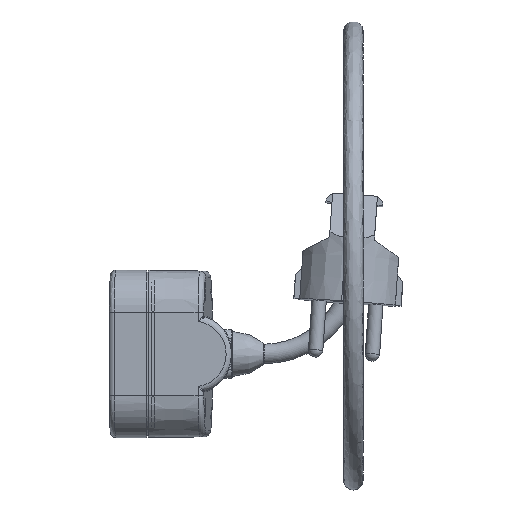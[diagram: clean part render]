
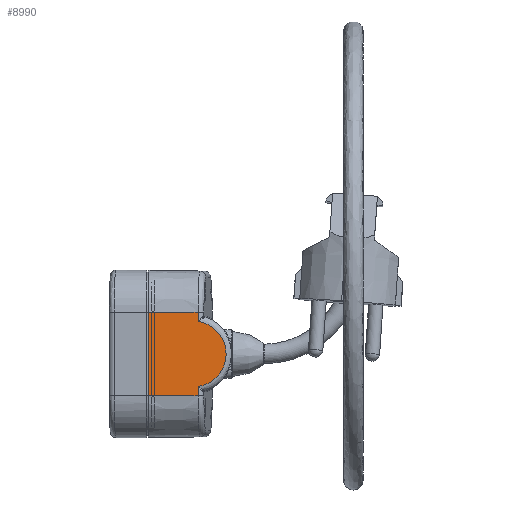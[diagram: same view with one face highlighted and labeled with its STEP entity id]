
A CAD part, left-side view. The second image highlights one B-rep face of the part: STEP entity #8990.
In plain terms, the highlighted planar face has unit normal (-1, -0.018, 0).
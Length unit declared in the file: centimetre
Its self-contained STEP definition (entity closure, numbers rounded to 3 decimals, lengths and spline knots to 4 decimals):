
#3900=CARTESIAN_POINT('',(-2.7709,-1.6655,1.088));
#3901=VERTEX_POINT('',#3900);
#3939=CARTESIAN_POINT('',(-2.7708,-1.6655,-1.088));
#3940=VERTEX_POINT('',#3939);
#3941=CARTESIAN_POINT('',(-2.7738,-1.5035,0.0));
#3942=DIRECTION('',(1.,0.017,0.0));
#3943=DIRECTION('',(0.017,-1.,0.0));
#3944=AXIS2_PLACEMENT_3D('',#3941,#3942,#3943);
#3945=ELLIPSE('',#3944,1.1002,1.1);
#3946=EDGE_CURVE('',#3901,#3940,#3945,.T.);
#7890=CARTESIAN_POINT('',(-2.7709,-1.6655,1.4));
#7891=VERTEX_POINT('',#7890);
#7899=CARTESIAN_POINT('',(-2.7709,-1.6655,1.4));
#7900=DIRECTION('',(0.0,0.0,-1.0));
#7901=VECTOR('',#7900,0.312);
#7902=LINE('',#7899,#7901);
#7903=EDGE_CURVE('',#7891,#3901,#7902,.T.);
#8189=CARTESIAN_POINT('',(-2.7709,-1.6655,-1.4));
#8190=VERTEX_POINT('',#8189);
#8222=CARTESIAN_POINT('',(-2.7709,-1.6655,-1.088));
#8223=DIRECTION('',(0.0,0.0,-1.0));
#8224=VECTOR('',#8223,0.312);
#8225=LINE('',#8222,#8224);
#8226=EDGE_CURVE('',#3940,#8190,#8225,.T.);
#8794=CARTESIAN_POINT('',(-2.8,0.0,-1.4));
#8795=VERTEX_POINT('',#8794);
#8803=CARTESIAN_POINT('',(-2.8,0.0,1.4));
#8804=VERTEX_POINT('',#8803);
#8805=CARTESIAN_POINT('',(-2.8,0.0,-1.4));
#8806=DIRECTION('',(0.0,0.0,1.0));
#8807=VECTOR('',#8806,2.8);
#8808=LINE('',#8805,#8807);
#8809=EDGE_CURVE('',#8795,#8804,#8808,.T.);
#8963=CARTESIAN_POINT('',(-2.8,0.0,1.4));
#8964=DIRECTION('',(0.017,-1.,0.0));
#8965=VECTOR('',#8964,1.6657);
#8966=LINE('',#8963,#8965);
#8967=EDGE_CURVE('',#8804,#7891,#8966,.T.);
#8972=CARTESIAN_POINT('',(-2.8,0.0,-0.7));
#8973=DIRECTION('',(-1.,-0.017,0.0));
#8974=DIRECTION('',(0.0,0.0,1.0));
#8975=AXIS2_PLACEMENT_3D('',#8972,#8973,#8974);
#8976=PLANE('',#8975);
#8977=ORIENTED_EDGE('',*,*,#7903,.F.);
#8978=ORIENTED_EDGE('',*,*,#8967,.F.);
#8979=ORIENTED_EDGE('',*,*,#8809,.F.);
#8980=CARTESIAN_POINT('',(-2.8,0.0,-1.4));
#8981=DIRECTION('',(0.017,-1.,0.0));
#8982=VECTOR('',#8981,1.6657);
#8983=LINE('',#8980,#8982);
#8984=EDGE_CURVE('',#8795,#8190,#8983,.T.);
#8985=ORIENTED_EDGE('',*,*,#8984,.T.);
#8986=ORIENTED_EDGE('',*,*,#8226,.F.);
#8987=ORIENTED_EDGE('',*,*,#3946,.F.);
#8988=EDGE_LOOP('',(#8977,#8978,#8979,#8985,#8986,#8987));
#8989=FACE_OUTER_BOUND('',#8988,.T.);
#8990=ADVANCED_FACE('',(#8989),#8976,.T.);
